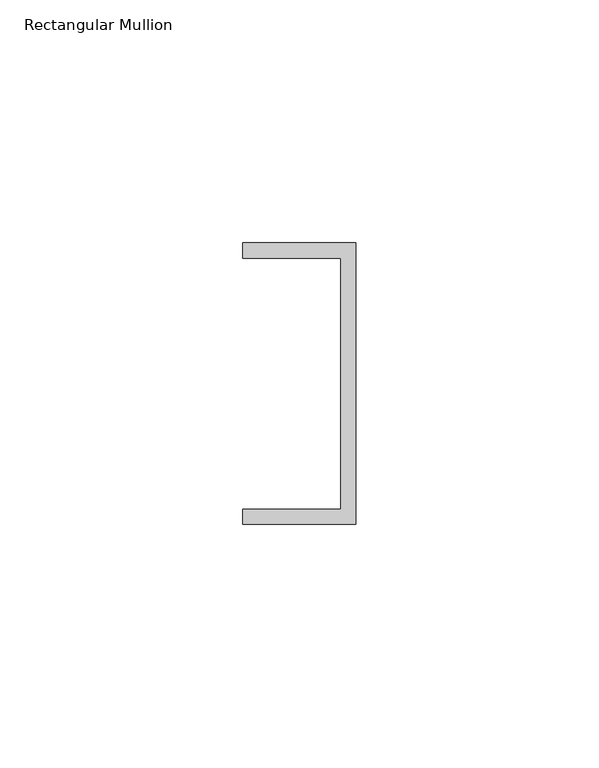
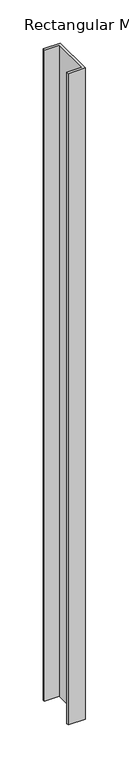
"""IFC4 building model written with IfcOpenShell, lengths in millimetres: member geometry, Rectangular Mullion : Frame-Teknion-Altos-Base_Channel."""

from ifc_helpers import new_model, si_unit, frame, origin, place, context, project, spatial, polyline, outline, extrude, source, transform, mapped, element, save


def rectangular_mullion_58d0cef2(model_context):
    return source(origin(), model_context, "Body", "SweptSolid", [
        extrude(outline(polyline([(0.0, 29.0214844), (0.0, -29.0214844), (-23.3164063, -29.0214844), (-23.3164063, -25.8464844), (-3.175, -25.8464844), (-3.175, 25.8464844), (-23.3164063, 25.8464844), (-23.3164063, 29.0214844), (0.0, 29.0214844)])), frame((0.0, 0.0, -923.2304687), z_axis=(0.0, 0.0, 1.0), x_axis=(1.0, 0.0, 0.0)), (0.0, 0.0, 1.0), 923.2304687),
    ])


if __name__ == "__main__":
    model = new_model("IFC4")
    model_context = context("Model", 3, world=origin())
    ifc_project = project(units=[si_unit("LENGTHUNIT", "METRE", prefix="MILLI")], contexts=[model_context])
    site = spatial("IfcSite", under=ifc_project)
    building = spatial("IfcBuilding", under=site)
    placement = place(None, origin())
    rectangular_mullion_shape = rectangular_mullion_58d0cef2(model_context)
    element("IfcMember", 1, ObjectType="Rectangular Mullion : Frame-Teknion-Altos-Base_Channel", at=placement, inside=building, context=model_context, shape_type="MappedRepresentation", body=[
        mapped(rectangular_mullion_shape, transform((0.0, 0.0, 0.0), x_axis=(1.0, 0.0, 0.0), y_axis=(0.0, 1.0, 0.0), z_axis=(0.0, 0.0, 1.0))),
    ])
    save(model, "model.ifc")
